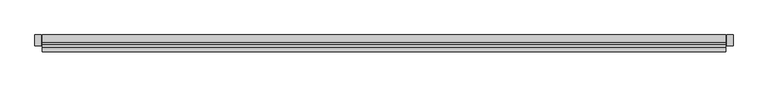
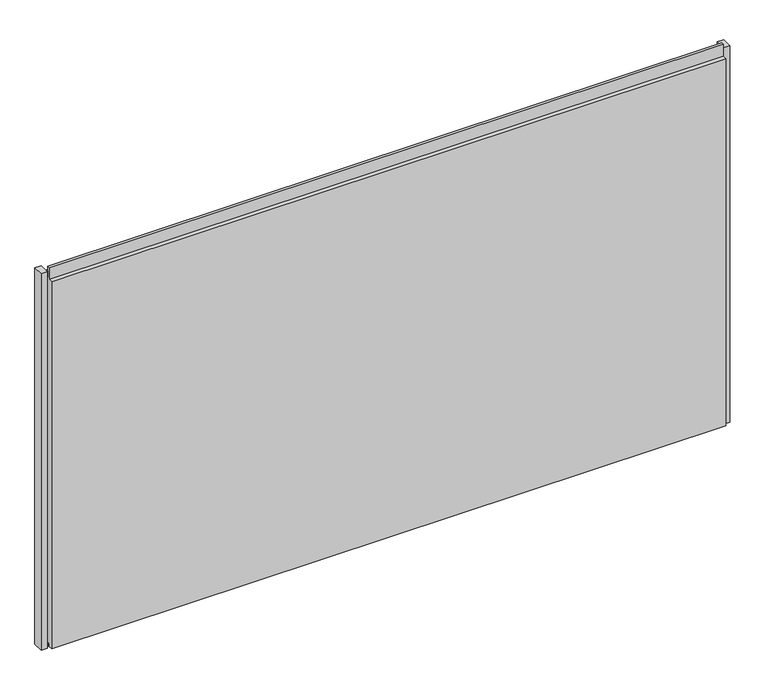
"""IFC4 building model written with IfcOpenShell, lengths in millimetres: plate geometry, Trimo_Qbiss Screen_Normal Panel-HORIZONTAL : HR - B-F."""

from ifc_helpers import new_model, si_unit, frame, origin, place, context, project, spatial, polyline, outline, extrude, source, transform, mapped, element, save


def plate_c233103a(model_context):
    return source(origin(), model_context, "Body", "SweptSolid", [
        extrude(outline(polyline([(-963.0, 67.8978162), (-982.0, 67.8978162), (-982.0, 100.0), (-963.0, 100.0), (-963.0, 67.8978162)])), frame((0.0, 0.0, -1.0), z_axis=(0.0, 0.0, 1.0), x_axis=(1.0, 0.0, 0.0)), (0.0, 0.0, 1.0), 1200.0),
        extrude(outline(polyline([(1094.5, 67.8978162), (1075.5, 67.8978162), (1075.5, 100.0), (1094.5, 100.0), (1094.5, 67.8978162)])), frame((0.0, 0.0, -1.0), z_axis=(0.0, 0.0, 1.0), x_axis=(1.0, 0.0, 0.0)), (0.0, 0.0, 1.0), 1200.0),
        extrude(outline(polyline([(1072.5, 76.0), (1072.5, 71.0), (-960.0, 71.0), (-960.0, 76.0), (1072.5, 76.0)])), frame((0.0, 0.0, 1178.0), z_axis=(0.0, 0.0, 1.0), x_axis=(1.0, 0.0, 0.0)), (0.0, 0.0, 1.0), 21.0),
        extrude(outline(polyline([(71.0, 1177.0), (100.0, 1177.0), (100.0, 0.0), (72.0, 0.0), (72.0, 15.5), (62.0, 15.5), (62.0, 7.0), (50.0, 7.0), (50.0, 1177.0), (63.0, 1177.0), (63.0, 1214.5), (71.0, 1214.5), (71.0, 1177.0)])), frame((-960.0, 0.0, 0.0), z_axis=(1.0, 0.0, 0.0), x_axis=(0.0, 1.0, 0.0)), (0.0, 0.0, 1.0), 2032.5),
    ])


if __name__ == "__main__":
    model = new_model("IFC4")
    model_context = context("Model", 3, world=origin())
    ifc_project = project(units=[si_unit("LENGTHUNIT", "METRE", prefix="MILLI")], contexts=[model_context])
    site = spatial("IfcSite", under=ifc_project)
    building = spatial("IfcBuilding", under=site)
    placement = place(None, origin())
    plate_shape = plate_c233103a(model_context)
    element("IfcPlate", 1, ObjectType="Trimo_Qbiss Screen_Normal Panel-HORIZONTAL : HR - B-F", at=placement, inside=building, context=model_context, shape_type="MappedRepresentation", body=[
        mapped(plate_shape, transform((0.0, 0.0, 0.0), x_axis=(1.0, 0.0, 0.0), y_axis=(0.0, 1.0, 0.0), z_axis=(0.0, 0.0, 1.0))),
    ])
    save(model, "model.ifc")
